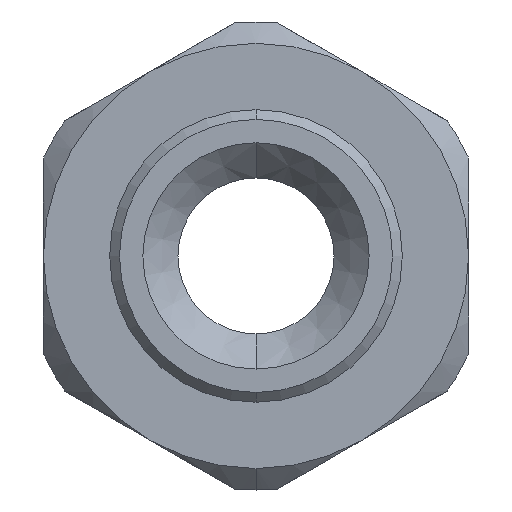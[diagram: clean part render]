
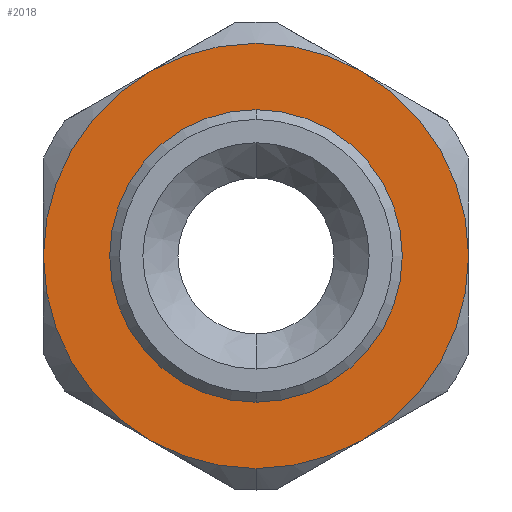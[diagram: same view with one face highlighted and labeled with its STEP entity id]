
A CAD part, front view. The second image highlights one B-rep face of the part: STEP entity #2018.
In plain terms, the highlighted planar face has unit normal (0, -1, 0).
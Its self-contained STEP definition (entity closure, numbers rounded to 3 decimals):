
#53 = ORIENTED_EDGE ( 'NONE', *, *, #2287, .T. ) ;
#79 = ORIENTED_EDGE ( 'NONE', *, *, #2291, .T. ) ;
#106 = ORIENTED_EDGE ( 'NONE', *, *, #2290, .F. ) ;
#110 = ORIENTED_EDGE ( 'NONE', *, *, #2292, .T. ) ;
#112 = ORIENTED_EDGE ( 'NONE', *, *, #2244, .T. ) ;
#114 = ORIENTED_EDGE ( 'NONE', *, *, #2293, .T. ) ;
#124 = EDGE_LOOP ( 'NONE', ( #79, #53, #110, #114, #291, #112, #283 ) ) ;
#248 = ORIENTED_EDGE ( 'NONE', *, *, #2313, .F. ) ;
#257 = EDGE_LOOP ( 'NONE', ( #248, #106 ) ) ;
#283 = ORIENTED_EDGE ( 'NONE', *, *, #2295, .T. ) ;
#291 = ORIENTED_EDGE ( 'NONE', *, *, #2294, .T. ) ;
#458 = VERTEX_POINT ( 'NONE', #576 ) ;
#459 = VERTEX_POINT ( 'NONE', #577 ) ;
#466 = VERTEX_POINT ( 'NONE', #584 ) ;
#488 = VERTEX_POINT ( 'NONE', #606 ) ;
#507 = VERTEX_POINT ( 'NONE', #625 ) ;
#533 = VERTEX_POINT ( 'NONE', #651 ) ;
#540 = VERTEX_POINT ( 'NONE', #658 ) ;
#547 = VERTEX_POINT ( 'NONE', #665 ) ;
#557 = VERTEX_POINT ( 'NONE', #675 ) ;
#576 = CARTESIAN_POINT ( 'NONE',  ( 5.45, 1., 9.44 ) ) ;
#577 = CARTESIAN_POINT ( 'NONE',  ( 0., 1., -10.9 ) ) ;
#584 = CARTESIAN_POINT ( 'NONE',  ( -5.45, 1., -9.44 ) ) ;
#606 = CARTESIAN_POINT ( 'NONE',  ( 5.45, 1., -9.44 ) ) ;
#625 = CARTESIAN_POINT ( 'NONE',  ( 0., 1., -7.5 ) ) ;
#651 = CARTESIAN_POINT ( 'NONE',  ( -10.9, 1., 0. ) ) ;
#658 = CARTESIAN_POINT ( 'NONE',  ( 10.9, 1., 0. ) ) ;
#665 = CARTESIAN_POINT ( 'NONE',  ( -5.45, 1., 9.44 ) ) ;
#675 = CARTESIAN_POINT ( 'NONE',  ( 0., 1., 7.5 ) ) ;
#724 = PLANE ( 'NONE',  #1821 ) ;
#725 = CARTESIAN_POINT ( 'NONE',  ( -12., 1., 0. ) ) ;
#726 = DIRECTION ( 'NONE',  ( 0., 1., 0. ) ) ;
#727 = DIRECTION ( 'NONE',  ( 0., 0., 1. ) ) ;
#979 = CARTESIAN_POINT ( 'NONE',  ( 0., 1., 0. ) ) ;
#989 = DIRECTION ( 'NONE',  ( 0., -1., 0. ) ) ;
#990 = DIRECTION ( 'NONE',  ( 0., 0., -1. ) ) ;
#1013 = AXIS2_PLACEMENT_3D ( 'NONE', #1322, #1323, #1324 ) ;
#1021 = AXIS2_PLACEMENT_3D ( 'NONE', #1319, #1320, #1321 ) ;
#1028 = AXIS2_PLACEMENT_3D ( 'NONE', #1316, #1317, #1318 ) ;
#1031 = AXIS2_PLACEMENT_3D ( 'NONE', #1301, #1305, #1306 ) ;
#1046 = AXIS2_PLACEMENT_3D ( 'NONE', #1307, #1314, #1315 ) ;
#1052 = AXIS2_PLACEMENT_3D ( 'NONE', #1379, #1383, #1384 ) ;
#1174 = AXIS2_PLACEMENT_3D ( 'NONE', #1328, #1329, #1330 ) ;
#1175 = AXIS2_PLACEMENT_3D ( 'NONE', #1325, #1326, #1327 ) ;
#1301 = CARTESIAN_POINT ( 'NONE',  ( 0., 1., 0. ) ) ;
#1305 = DIRECTION ( 'NONE',  ( 0., -1., 0. ) ) ;
#1306 = DIRECTION ( 'NONE',  ( 0., 0., -1. ) ) ;
#1307 = CARTESIAN_POINT ( 'NONE',  ( 0., 1., 0. ) ) ;
#1314 = DIRECTION ( 'NONE',  ( 0., -1., 0. ) ) ;
#1315 = DIRECTION ( 'NONE',  ( 0., 0., -1. ) ) ;
#1316 = CARTESIAN_POINT ( 'NONE',  ( 0., 1., 0. ) ) ;
#1317 = DIRECTION ( 'NONE',  ( 0., -1., 0. ) ) ;
#1318 = DIRECTION ( 'NONE',  ( 0., 0., -1. ) ) ;
#1319 = CARTESIAN_POINT ( 'NONE',  ( 0., 1., 0. ) ) ;
#1320 = DIRECTION ( 'NONE',  ( 0., -1., 0. ) ) ;
#1321 = DIRECTION ( 'NONE',  ( 0., 0., -1. ) ) ;
#1322 = CARTESIAN_POINT ( 'NONE',  ( 0., 1., 0. ) ) ;
#1323 = DIRECTION ( 'NONE',  ( 0., -1., 0. ) ) ;
#1324 = DIRECTION ( 'NONE',  ( 0., 0., -1. ) ) ;
#1325 = CARTESIAN_POINT ( 'NONE',  ( 0., 1., 0. ) ) ;
#1326 = DIRECTION ( 'NONE',  ( 0., -1., 0. ) ) ;
#1327 = DIRECTION ( 'NONE',  ( 0., 0., -1. ) ) ;
#1328 = CARTESIAN_POINT ( 'NONE',  ( 0., 1., 0. ) ) ;
#1329 = DIRECTION ( 'NONE',  ( 0., -1., 0. ) ) ;
#1330 = DIRECTION ( 'NONE',  ( 0., 0., -1. ) ) ;
#1379 = CARTESIAN_POINT ( 'NONE',  ( 0., 1., 0. ) ) ;
#1383 = DIRECTION ( 'NONE',  ( 0., -1., 0. ) ) ;
#1384 = DIRECTION ( 'NONE',  ( 0., 0., -1. ) ) ;
#1812 = AXIS2_PLACEMENT_3D ( 'NONE', #979, #989, #990 ) ;
#1816 = FACE_BOUND ( 'NONE', #257, .T. ) ;
#1821 = AXIS2_PLACEMENT_3D ( 'NONE', #725, #726, #727 ) ;
#1824 = FACE_OUTER_BOUND ( 'NONE', #124, .T. ) ;
#2018 = ADVANCED_FACE ( 'NONE', ( #1816, #1824 ), #724, .F. ) ;
#2146 = CIRCLE ( 'NONE', #1052, 7.5 ) ;
#2154 = CIRCLE ( 'NONE', #1174, 10.9 ) ;
#2155 = CIRCLE ( 'NONE', #1175, 10.9 ) ;
#2156 = CIRCLE ( 'NONE', #1013, 10.9 ) ;
#2157 = CIRCLE ( 'NONE', #1021, 10.9 ) ;
#2158 = CIRCLE ( 'NONE', #1028, 10.9 ) ;
#2159 = CIRCLE ( 'NONE', #1046, 7.5 ) ;
#2160 = CIRCLE ( 'NONE', #1031, 10.9 ) ;
#2179 = CIRCLE ( 'NONE', #1812, 10.9 ) ;
#2244 = EDGE_CURVE ( 'NONE', #459, #488, #2179, .T. ) ;
#2287 = EDGE_CURVE ( 'NONE', #458, #547, #2160, .T. ) ;
#2290 = EDGE_CURVE ( 'NONE', #557, #507, #2159, .T. ) ;
#2291 = EDGE_CURVE ( 'NONE', #540, #458, #2158, .T. ) ;
#2292 = EDGE_CURVE ( 'NONE', #547, #533, #2157, .T. ) ;
#2293 = EDGE_CURVE ( 'NONE', #533, #466, #2156, .T. ) ;
#2294 = EDGE_CURVE ( 'NONE', #466, #459, #2155, .T. ) ;
#2295 = EDGE_CURVE ( 'NONE', #488, #540, #2154, .T. ) ;
#2313 = EDGE_CURVE ( 'NONE', #507, #557, #2146, .T. ) ;
